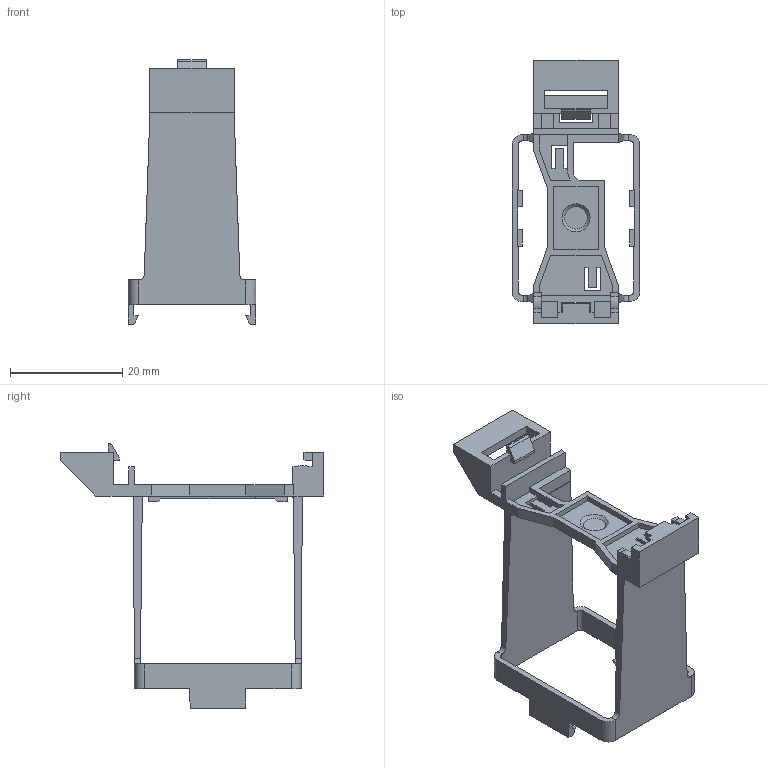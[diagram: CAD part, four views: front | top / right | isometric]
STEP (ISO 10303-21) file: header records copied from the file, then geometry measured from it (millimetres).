
FILE_DESCRIPTION(/* description */ ('Unknown'),/* implementation_level */ '2;1');
FILE_NAME(/* name */ '05627',/* time_stamp */ '2015-12-09T09:01:42+01:00',/* author */ ('Unknown'),/* organization */ ('Unknown'),/* preprocessor_version */ 'ST-DEVELOPER v16',/* originating_system */ 'DEX',/* authorisation */ $);
FILE_SCHEMA (('AUTOMOTIVE_DESIGN {1 0 10303 214 3 1 1}'));
Length unit declared in the file: millimetre
Products named in the file (1): 156785
Bounding box: 22.75 x 46.9 x 47.1 mm (x, y, z)
Volume: 3072.9 mm3; surface area: 5599.1 mm2
Topology: 1 solids, 1 shells, 187 faces, 561 edges, 367 vertices
Faces by surface type: plane 165, cylinder 19, cone 3
Entity records: 6274 total; most frequent: CARTESIAN_POINT 1151, ORIENTED_EDGE 1120, DIRECTION 977, EDGE_CURVE 560, LINE 509, VECTOR 509, VERTEX_POINT 367, AXIS2_PLACEMENT_3D 234
